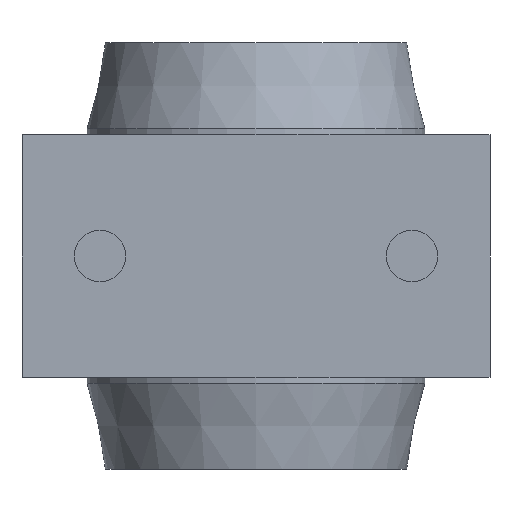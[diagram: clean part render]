
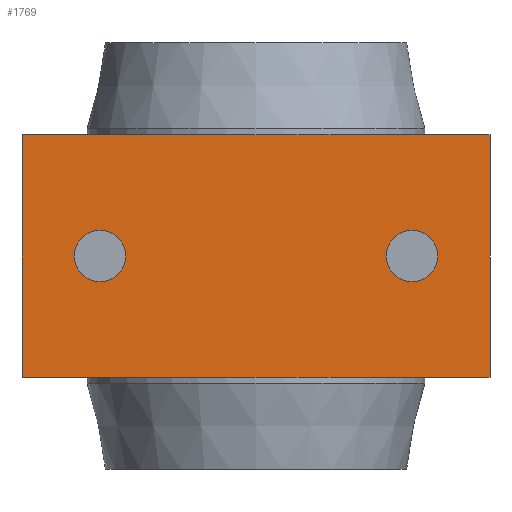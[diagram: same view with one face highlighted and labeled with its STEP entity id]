
A CAD part, front view. The second image highlights one B-rep face of the part: STEP entity #1769.
In plain terms, the highlighted planar face has unit normal (0, -1, 0).
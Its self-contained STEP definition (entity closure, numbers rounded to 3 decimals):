
#110=FACE_BOUND('',#316,.T.);
#111=FACE_BOUND('',#317,.T.);
#145=PLANE('',#2037);
#207=FACE_OUTER_BOUND('',#315,.T.);
#315=EDGE_LOOP('',(#1272,#1273,#1274,#1275));
#316=EDGE_LOOP('',(#1276,#1277));
#317=EDGE_LOOP('',(#1278,#1279));
#442=LINE('',#2936,#533);
#449=LINE('',#2952,#540);
#458=LINE('',#2987,#549);
#459=LINE('',#2989,#550);
#533=VECTOR('',#2306,10.);
#540=VECTOR('',#2319,10.);
#549=VECTOR('',#2362,10.);
#550=VECTOR('',#2365,10.);
#616=CIRCLE('',#1984,4.188);
#617=CIRCLE('',#1985,4.188);
#620=CIRCLE('',#1990,4.188);
#621=CIRCLE('',#1991,4.188);
#731=VERTEX_POINT('',#2865);
#732=VERTEX_POINT('',#2866);
#735=VERTEX_POINT('',#2876);
#736=VERTEX_POINT('',#2877);
#758=VERTEX_POINT('',#2933);
#759=VERTEX_POINT('',#2935);
#764=VERTEX_POINT('',#2949);
#765=VERTEX_POINT('',#2951);
#905=EDGE_CURVE('',#731,#732,#616,.T.);
#906=EDGE_CURVE('',#732,#731,#617,.T.);
#910=EDGE_CURVE('',#735,#736,#620,.T.);
#911=EDGE_CURVE('',#736,#735,#621,.T.);
#938=EDGE_CURVE('',#759,#758,#442,.T.);
#946=EDGE_CURVE('',#765,#764,#449,.T.);
#965=EDGE_CURVE('',#758,#765,#458,.T.);
#966=EDGE_CURVE('',#764,#759,#459,.T.);
#1272=ORIENTED_EDGE('',*,*,#965,.T.);
#1273=ORIENTED_EDGE('',*,*,#946,.T.);
#1274=ORIENTED_EDGE('',*,*,#966,.T.);
#1275=ORIENTED_EDGE('',*,*,#938,.T.);
#1276=ORIENTED_EDGE('',*,*,#905,.T.);
#1277=ORIENTED_EDGE('',*,*,#906,.T.);
#1278=ORIENTED_EDGE('',*,*,#910,.T.);
#1279=ORIENTED_EDGE('',*,*,#911,.T.);
#1769=ADVANCED_FACE('',(#207,#110,#111),#145,.F.);
#1984=AXIS2_PLACEMENT_3D('',#2867,#2232,#2233);
#1985=AXIS2_PLACEMENT_3D('',#2868,#2234,#2235);
#1990=AXIS2_PLACEMENT_3D('',#2878,#2245,#2246);
#1991=AXIS2_PLACEMENT_3D('',#2879,#2247,#2248);
#2037=AXIS2_PLACEMENT_3D('',#2990,#2366,#2367);
#2232=DIRECTION('center_axis',(0.,1.,0.));
#2233=DIRECTION('ref_axis',(-1.,0.,0.));
#2234=DIRECTION('center_axis',(0.,1.,0.));
#2235=DIRECTION('ref_axis',(-1.,0.,0.));
#2245=DIRECTION('center_axis',(0.,1.,0.));
#2246=DIRECTION('ref_axis',(-1.,0.,0.));
#2247=DIRECTION('center_axis',(0.,1.,0.));
#2248=DIRECTION('ref_axis',(-1.,0.,0.));
#2306=DIRECTION('',(1.,0.,0.));
#2319=DIRECTION('',(-1.,0.,0.));
#2362=DIRECTION('',(0.,0.,1.));
#2365=DIRECTION('',(0.,0.,-1.));
#2366=DIRECTION('center_axis',(0.,1.,0.));
#2367=DIRECTION('ref_axis',(0.,0.,1.));
#2865=CARTESIAN_POINT('',(-29.588,-36.5,0.));
#2866=CARTESIAN_POINT('',(-21.212,-36.5,0.));
#2867=CARTESIAN_POINT('Origin',(-25.4,-36.5,0.));
#2868=CARTESIAN_POINT('Origin',(-25.4,-36.5,0.));
#2876=CARTESIAN_POINT('',(21.212,-36.5,0.));
#2877=CARTESIAN_POINT('',(29.588,-36.5,0.));
#2878=CARTESIAN_POINT('Origin',(25.4,-36.5,0.));
#2879=CARTESIAN_POINT('Origin',(25.4,-36.5,0.));
#2933=CARTESIAN_POINT('',(38.1,-36.5,-19.75));
#2935=CARTESIAN_POINT('',(-38.1,-36.5,-19.75));
#2936=CARTESIAN_POINT('',(19.05,-36.5,-19.75));
#2949=CARTESIAN_POINT('',(-38.1,-36.5,19.75));
#2951=CARTESIAN_POINT('',(38.1,-36.5,19.75));
#2952=CARTESIAN_POINT('',(-19.05,-36.5,19.75));
#2987=CARTESIAN_POINT('',(38.1,-36.5,9.875));
#2989=CARTESIAN_POINT('',(-38.1,-36.5,-9.875));
#2990=CARTESIAN_POINT('Origin',(0.,-36.5,0.));
